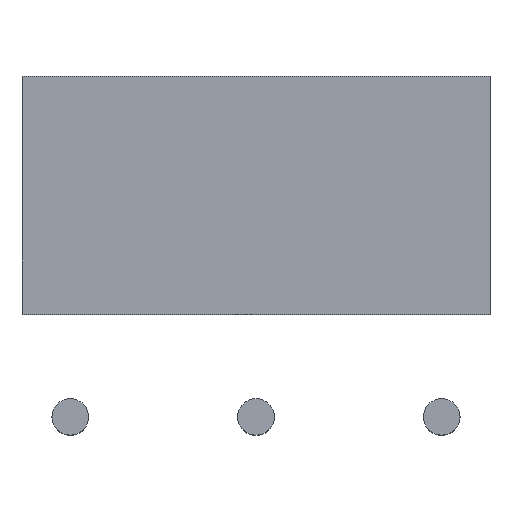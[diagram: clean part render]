
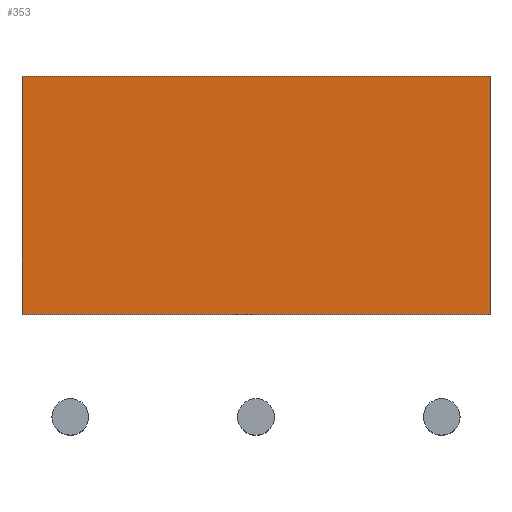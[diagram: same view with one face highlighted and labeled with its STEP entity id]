
A CAD part, top view. The second image highlights one B-rep face of the part: STEP entity #353.
In plain terms, the highlighted planar face has unit normal (0, 0, 1).
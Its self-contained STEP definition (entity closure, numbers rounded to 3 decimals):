
#39 = VERTEX_POINT('',#40);
#40 = CARTESIAN_POINT('',(-1.32,9.3,5.95));
#47 = PLANE('',#48);
#48 = AXIS2_PLACEMENT_3D('',#49,#50,#51);
#49 = CARTESIAN_POINT('',(-1.32,9.3,0.));
#50 = DIRECTION('',(0.,1.,0.));
#51 = DIRECTION('',(1.,0.,0.));
#59 = PLANE('',#60);
#60 = AXIS2_PLACEMENT_3D('',#61,#62,#63);
#61 = CARTESIAN_POINT('',(-1.32,2.8,0.));
#62 = DIRECTION('',(-1.,0.,0.));
#63 = DIRECTION('',(0.,1.,0.));
#71 = EDGE_CURVE('',#39,#72,#74,.T.);
#72 = VERTEX_POINT('',#73);
#73 = CARTESIAN_POINT('',(11.48,9.3,5.95));
#74 = SURFACE_CURVE('',#75,(#79,#86),.PCURVE_S1.);
#75 = LINE('',#76,#77);
#76 = CARTESIAN_POINT('',(-1.32,9.3,5.95));
#77 = VECTOR('',#78,1.);
#78 = DIRECTION('',(1.,0.,0.));
#79 = PCURVE('',#47,#80);
#80 = DEFINITIONAL_REPRESENTATION('',(#81),#85);
#81 = LINE('',#82,#83);
#82 = CARTESIAN_POINT('',(0.,-5.95));
#83 = VECTOR('',#84,1.);
#84 = DIRECTION('',(1.,0.));
#85 = ( GEOMETRIC_REPRESENTATION_CONTEXT(2) 
PARAMETRIC_REPRESENTATION_CONTEXT() REPRESENTATION_CONTEXT('2D SPACE',''
  ) );
#86 = PCURVE('',#87,#92);
#87 = PLANE('',#88);
#88 = AXIS2_PLACEMENT_3D('',#89,#90,#91);
#89 = CARTESIAN_POINT('',(5.08,6.05,5.95));
#90 = DIRECTION('',(0.,0.,-1.));
#91 = DIRECTION('',(0.,-1.,0.));
#92 = DEFINITIONAL_REPRESENTATION('',(#93),#97);
#93 = LINE('',#94,#95);
#94 = CARTESIAN_POINT('',(-3.25,6.4));
#95 = VECTOR('',#96,1.);
#96 = DIRECTION('',(0.,-1.));
#97 = ( GEOMETRIC_REPRESENTATION_CONTEXT(2) 
PARAMETRIC_REPRESENTATION_CONTEXT() REPRESENTATION_CONTEXT('2D SPACE',''
  ) );
#115 = PLANE('',#116);
#116 = AXIS2_PLACEMENT_3D('',#117,#118,#119);
#117 = CARTESIAN_POINT('',(11.48,9.3,0.));
#118 = DIRECTION('',(1.,0.,-0.));
#119 = DIRECTION('',(0.,-1.,0.));
#157 = EDGE_CURVE('',#72,#158,#160,.T.);
#158 = VERTEX_POINT('',#159);
#159 = CARTESIAN_POINT('',(11.48,2.8,5.95));
#160 = SURFACE_CURVE('',#161,(#165,#172),.PCURVE_S1.);
#161 = LINE('',#162,#163);
#162 = CARTESIAN_POINT('',(11.48,9.3,5.95));
#163 = VECTOR('',#164,1.);
#164 = DIRECTION('',(0.,-1.,0.));
#165 = PCURVE('',#115,#166);
#166 = DEFINITIONAL_REPRESENTATION('',(#167),#171);
#167 = LINE('',#168,#169);
#168 = CARTESIAN_POINT('',(0.,-5.95));
#169 = VECTOR('',#170,1.);
#170 = DIRECTION('',(1.,0.));
#171 = ( GEOMETRIC_REPRESENTATION_CONTEXT(2) 
PARAMETRIC_REPRESENTATION_CONTEXT() REPRESENTATION_CONTEXT('2D SPACE',''
  ) );
#172 = PCURVE('',#87,#173);
#173 = DEFINITIONAL_REPRESENTATION('',(#174),#178);
#174 = LINE('',#175,#176);
#175 = CARTESIAN_POINT('',(-3.25,-6.4));
#176 = VECTOR('',#177,1.);
#177 = DIRECTION('',(1.,0.));
#178 = ( GEOMETRIC_REPRESENTATION_CONTEXT(2) 
PARAMETRIC_REPRESENTATION_CONTEXT() REPRESENTATION_CONTEXT('2D SPACE',''
  ) );
#196 = PLANE('',#197);
#197 = AXIS2_PLACEMENT_3D('',#198,#199,#200);
#198 = CARTESIAN_POINT('',(11.48,2.8,0.));
#199 = DIRECTION('',(0.,-1.,0.));
#200 = DIRECTION('',(-1.,0.,0.));
#233 = EDGE_CURVE('',#158,#234,#236,.T.);
#234 = VERTEX_POINT('',#235);
#235 = CARTESIAN_POINT('',(-1.32,2.8,5.95));
#236 = SURFACE_CURVE('',#237,(#241,#248),.PCURVE_S1.);
#237 = LINE('',#238,#239);
#238 = CARTESIAN_POINT('',(11.48,2.8,5.95));
#239 = VECTOR('',#240,1.);
#240 = DIRECTION('',(-1.,0.,0.));
#241 = PCURVE('',#196,#242);
#242 = DEFINITIONAL_REPRESENTATION('',(#243),#247);
#243 = LINE('',#244,#245);
#244 = CARTESIAN_POINT('',(0.,-5.95));
#245 = VECTOR('',#246,1.);
#246 = DIRECTION('',(1.,0.));
#247 = ( GEOMETRIC_REPRESENTATION_CONTEXT(2) 
PARAMETRIC_REPRESENTATION_CONTEXT() REPRESENTATION_CONTEXT('2D SPACE',''
  ) );
#248 = PCURVE('',#87,#249);
#249 = DEFINITIONAL_REPRESENTATION('',(#250),#254);
#250 = LINE('',#251,#252);
#251 = CARTESIAN_POINT('',(3.25,-6.4));
#252 = VECTOR('',#253,1.);
#253 = DIRECTION('',(0.,1.));
#254 = ( GEOMETRIC_REPRESENTATION_CONTEXT(2) 
PARAMETRIC_REPRESENTATION_CONTEXT() REPRESENTATION_CONTEXT('2D SPACE',''
  ) );
#304 = EDGE_CURVE('',#234,#39,#305,.T.);
#305 = SURFACE_CURVE('',#306,(#310,#317),.PCURVE_S1.);
#306 = LINE('',#307,#308);
#307 = CARTESIAN_POINT('',(-1.32,2.8,5.95));
#308 = VECTOR('',#309,1.);
#309 = DIRECTION('',(0.,1.,0.));
#310 = PCURVE('',#59,#311);
#311 = DEFINITIONAL_REPRESENTATION('',(#312),#316);
#312 = LINE('',#313,#314);
#313 = CARTESIAN_POINT('',(0.,-5.95));
#314 = VECTOR('',#315,1.);
#315 = DIRECTION('',(1.,0.));
#316 = ( GEOMETRIC_REPRESENTATION_CONTEXT(2) 
PARAMETRIC_REPRESENTATION_CONTEXT() REPRESENTATION_CONTEXT('2D SPACE',''
  ) );
#317 = PCURVE('',#87,#318);
#318 = DEFINITIONAL_REPRESENTATION('',(#319),#323);
#319 = LINE('',#320,#321);
#320 = CARTESIAN_POINT('',(3.25,6.4));
#321 = VECTOR('',#322,1.);
#322 = DIRECTION('',(-1.,0.));
#323 = ( GEOMETRIC_REPRESENTATION_CONTEXT(2) 
PARAMETRIC_REPRESENTATION_CONTEXT() REPRESENTATION_CONTEXT('2D SPACE',''
  ) );
#353 = ADVANCED_FACE('',(#354),#87,.F.);
#354 = FACE_BOUND('',#355,.F.);
#355 = EDGE_LOOP('',(#356,#357,#358,#359));
#356 = ORIENTED_EDGE('',*,*,#71,.T.);
#357 = ORIENTED_EDGE('',*,*,#157,.T.);
#358 = ORIENTED_EDGE('',*,*,#233,.T.);
#359 = ORIENTED_EDGE('',*,*,#304,.T.);
